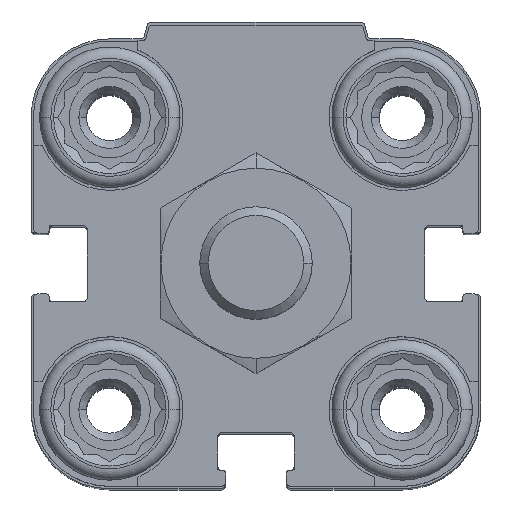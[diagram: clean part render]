
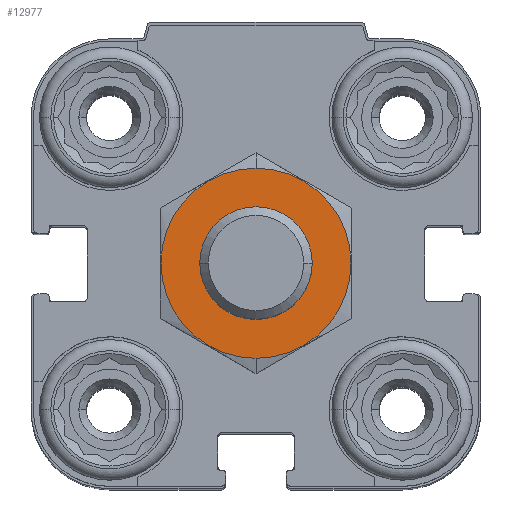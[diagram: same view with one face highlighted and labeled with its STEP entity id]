
A CAD part, top view. The second image highlights one B-rep face of the part: STEP entity #12977.
In plain terms, the highlighted planar face has unit normal (0, 0, 1).
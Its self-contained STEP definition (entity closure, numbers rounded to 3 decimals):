
#42 = EDGE_CURVE ( 'NONE', #49, #1846, #13308, .T. ) ;
#49 = VERTEX_POINT ( 'NONE', #8949 ) ;
#192 = CIRCLE ( 'NONE', #3743, 8.45 ) ;
#1846 = VERTEX_POINT ( 'NONE', #4396 ) ;
#1865 = DIRECTION ( 'NONE',  ( 0., 0., -1. ) ) ;
#2334 = CIRCLE ( 'NONE', #5240, 8.45 ) ;
#2650 = EDGE_CURVE ( 'NONE', #1846, #49, #13366, .T. ) ;
#2687 = CARTESIAN_POINT ( 'NONE',  ( 0., 0., 14.5 ) ) ;
#2755 = CARTESIAN_POINT ( 'NONE',  ( 0., 8.45, 14.5 ) ) ;
#3286 = DIRECTION ( 'NONE',  ( 0., -1., 0. ) ) ;
#3475 = FACE_BOUND ( 'NONE', #3531, .T. ) ;
#3531 = EDGE_LOOP ( 'NONE', ( #18157, #11285 ) ) ;
#3743 = AXIS2_PLACEMENT_3D ( 'NONE', #2687, #19812, #19611 ) ;
#3758 = AXIS2_PLACEMENT_3D ( 'NONE', #11290, #1865, #6625 ) ;
#4396 = CARTESIAN_POINT ( 'NONE',  ( 0., 5., 14.5 ) ) ;
#4572 = CARTESIAN_POINT ( 'NONE',  ( 0., 0., 14.5 ) ) ;
#5240 = AXIS2_PLACEMENT_3D ( 'NONE', #8374, #9984, #14538 ) ;
#5893 = AXIS2_PLACEMENT_3D ( 'NONE', #4572, #9354, #10768 ) ;
#6625 = DIRECTION ( 'NONE',  ( 0., -1., 0. ) ) ;
#8057 = PLANE ( 'NONE',  #3758 ) ;
#8300 = EDGE_CURVE ( 'NONE', #9686, #11833, #2334, .T. ) ;
#8374 = CARTESIAN_POINT ( 'NONE',  ( 0., 0., 14.5 ) ) ;
#8949 = CARTESIAN_POINT ( 'NONE',  ( 0., -5., 14.5 ) ) ;
#9354 = DIRECTION ( 'NONE',  ( 0., 0., -1. ) ) ;
#9686 = VERTEX_POINT ( 'NONE', #12023 ) ;
#9984 = DIRECTION ( 'NONE',  ( 0., 0., -1. ) ) ;
#10768 = DIRECTION ( 'NONE',  ( 0., -1., 0. ) ) ;
#10851 = EDGE_LOOP ( 'NONE', ( #12420, #11733 ) ) ;
#11204 = CARTESIAN_POINT ( 'NONE',  ( 0., 0., 14.5 ) ) ;
#11285 = ORIENTED_EDGE ( 'NONE', *, *, #42, .T. ) ;
#11290 = CARTESIAN_POINT ( 'NONE',  ( 0., 0., 14.5 ) ) ;
#11733 = ORIENTED_EDGE ( 'NONE', *, *, #12883, .F. ) ;
#11833 = VERTEX_POINT ( 'NONE', #2755 ) ;
#12023 = CARTESIAN_POINT ( 'NONE',  ( 0., -8.45, 14.5 ) ) ;
#12420 = ORIENTED_EDGE ( 'NONE', *, *, #8300, .F. ) ;
#12883 = EDGE_CURVE ( 'NONE', #11833, #9686, #192, .T. ) ;
#12977 = ADVANCED_FACE ( 'NONE', ( #15645, #3475 ), #8057, .F. ) ;
#13308 = CIRCLE ( 'NONE', #5893, 5. ) ;
#13366 = CIRCLE ( 'NONE', #15967, 5. ) ;
#14538 = DIRECTION ( 'NONE',  ( 0., -1., 0. ) ) ;
#15645 = FACE_OUTER_BOUND ( 'NONE', #10851, .T. ) ;
#15967 = AXIS2_PLACEMENT_3D ( 'NONE', #11204, #16054, #3286 ) ;
#16054 = DIRECTION ( 'NONE',  ( 0., 0., -1. ) ) ;
#18157 = ORIENTED_EDGE ( 'NONE', *, *, #2650, .T. ) ;
#19611 = DIRECTION ( 'NONE',  ( 0., -1., 0. ) ) ;
#19812 = DIRECTION ( 'NONE',  ( 0., 0., -1. ) ) ;
